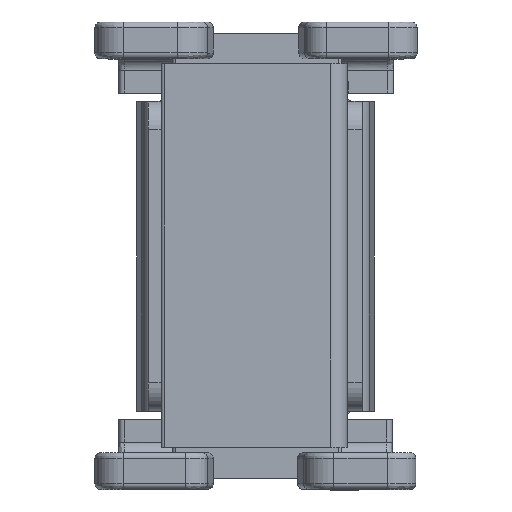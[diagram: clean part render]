
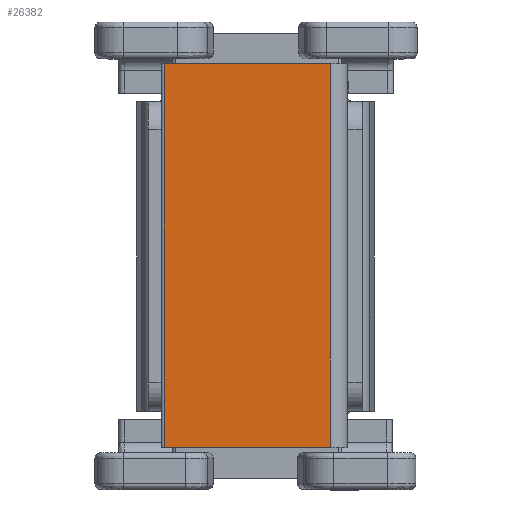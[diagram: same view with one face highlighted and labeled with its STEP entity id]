
A CAD part, top view. The second image highlights one B-rep face of the part: STEP entity #26382.
In plain terms, the highlighted planar face has unit normal (0, 0, 1).
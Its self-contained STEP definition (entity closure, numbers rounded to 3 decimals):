
#2147 = CARTESIAN_POINT ( 'NONE',  ( 63.55, 84.24, 81.475 ) ) ;
#2893 = AXIS2_PLACEMENT_3D ( 'NONE', #8676, #25998, #8784 ) ;
#3942 = CARTESIAN_POINT ( 'NONE',  ( 34.05, 139.34, 81.475 ) ) ;
#3992 = LINE ( 'NONE', #16979, #26501 ) ;
#4885 = CARTESIAN_POINT ( 'NONE',  ( 34.05, 71.24, 81.475 ) ) ;
#5441 = EDGE_CURVE ( 'NONE', #18352, #7883, #29257, .T. ) ;
#6603 = VECTOR ( 'NONE', #27313, 1000. ) ;
#6723 = EDGE_CURVE ( 'NONE', #7883, #15516, #3992, .T. ) ;
#7883 = VERTEX_POINT ( 'NONE', #19253 ) ;
#7887 = EDGE_CURVE ( 'NONE', #12854, #18352, #15931, .T. ) ;
#8232 = EDGE_LOOP ( 'NONE', ( #26247, #13648, #9650, #11782 ) ) ;
#8676 = CARTESIAN_POINT ( 'NONE',  ( 33.55, 84.24, 81.475 ) ) ;
#8784 = DIRECTION ( 'NONE',  ( 0., -1., 0. ) ) ;
#8901 = PLANE ( 'NONE',  #2893 ) ;
#9650 = ORIENTED_EDGE ( 'NONE', *, *, #6723, .T. ) ;
#9999 = CARTESIAN_POINT ( 'NONE',  ( 34.05, 84.24, 81.475 ) ) ;
#11782 = ORIENTED_EDGE ( 'NONE', *, *, #15751, .T. ) ;
#12854 = VERTEX_POINT ( 'NONE', #4885 ) ;
#13648 = ORIENTED_EDGE ( 'NONE', *, *, #5441, .T. ) ;
#15516 = VERTEX_POINT ( 'NONE', #3942 ) ;
#15751 = EDGE_CURVE ( 'NONE', #15516, #12854, #27884, .T. ) ;
#15931 = LINE ( 'NONE', #28923, #22526 ) ;
#16829 = FACE_OUTER_BOUND ( 'NONE', #8232, .T. ) ;
#16979 = CARTESIAN_POINT ( 'NONE',  ( 33.55, 139.34, 81.475 ) ) ;
#18352 = VERTEX_POINT ( 'NONE', #25097 ) ;
#18477 = DIRECTION ( 'NONE',  ( 1., 0., 0. ) ) ;
#19253 = CARTESIAN_POINT ( 'NONE',  ( 63.55, 139.34, 81.475 ) ) ;
#19437 = DIRECTION ( 'NONE',  ( 0., 1., 0. ) ) ;
#22379 = DIRECTION ( 'NONE',  ( -1., 0., 0. ) ) ;
#22526 = VECTOR ( 'NONE', #18477, 1000. ) ;
#25097 = CARTESIAN_POINT ( 'NONE',  ( 63.55, 71.24, 81.475 ) ) ;
#25998 = DIRECTION ( 'NONE',  ( 0., 0., 1. ) ) ;
#26247 = ORIENTED_EDGE ( 'NONE', *, *, #7887, .T. ) ;
#26382 = ADVANCED_FACE ( 'NONE', ( #16829 ), #8901, .T. ) ;
#26501 = VECTOR ( 'NONE', #22379, 1000. ) ;
#27313 = DIRECTION ( 'NONE',  ( 0., -1., 0. ) ) ;
#27884 = LINE ( 'NONE', #9999, #6603 ) ;
#28469 = VECTOR ( 'NONE', #19437, 1000. ) ;
#28923 = CARTESIAN_POINT ( 'NONE',  ( 50.05, 71.24, 81.475 ) ) ;
#29257 = LINE ( 'NONE', #2147, #28469 ) ;
